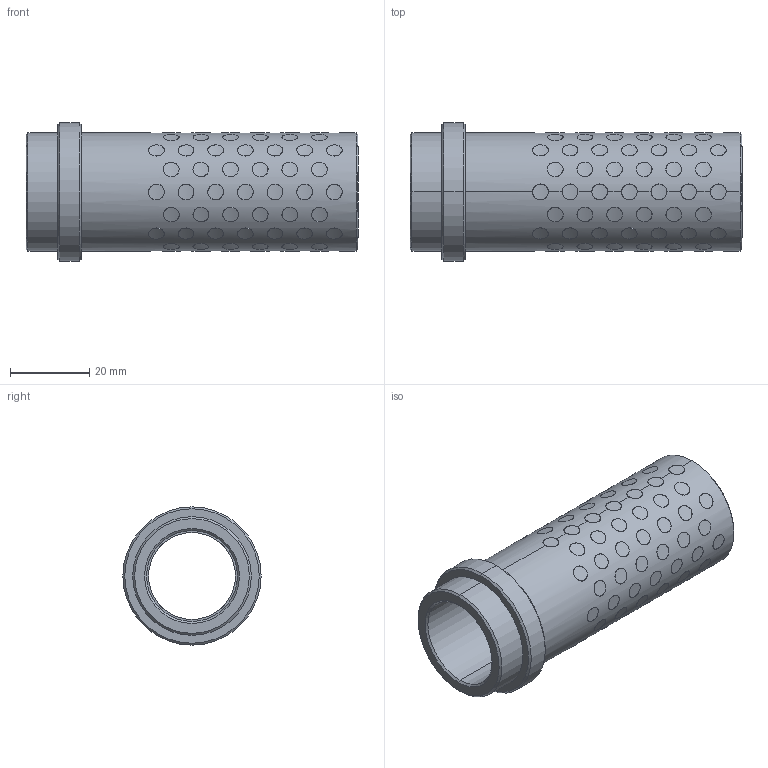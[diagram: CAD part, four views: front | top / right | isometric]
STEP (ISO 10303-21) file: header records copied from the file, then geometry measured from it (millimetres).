
FILE_DESCRIPTION((''),'2;1');
FILE_NAME('G31222076','2017-12-30T',('MANU'),(''),'PRO/ENGINEER BY PARAMETRIC TECHNOLOGY CORPORATION, 2012130','PRO/ENGINEER BY PARAMETRIC TECHNOLOGY CORPORATION, 2012130','');
FILE_SCHEMA(('CONFIG_CONTROL_DESIGN'));
Length unit declared in the file: millimetre
Products named in the file (1): G31222076
Bounding box: 84 x 35 x 35 mm (x, y, z)
Volume: 27752.4 mm3; surface area: 25297.7 mm2
Topology: 105 solids, 105 shells, 651 faces, 1386 edges, 920 vertices
Faces by surface type: cylinder 634, cone 12, plane 5
Entity records: 31132 total; most frequent: CARTESIAN_POINT 18459, ORIENTED_EDGE 2772, DIRECTION 1832, EDGE_CURVE 1386, VERTEX_POINT 920, B_SPLINE_CURVE_WITH_KNOTS 888, EDGE_LOOP 836, AXIS2_PLACEMENT_3D 683
